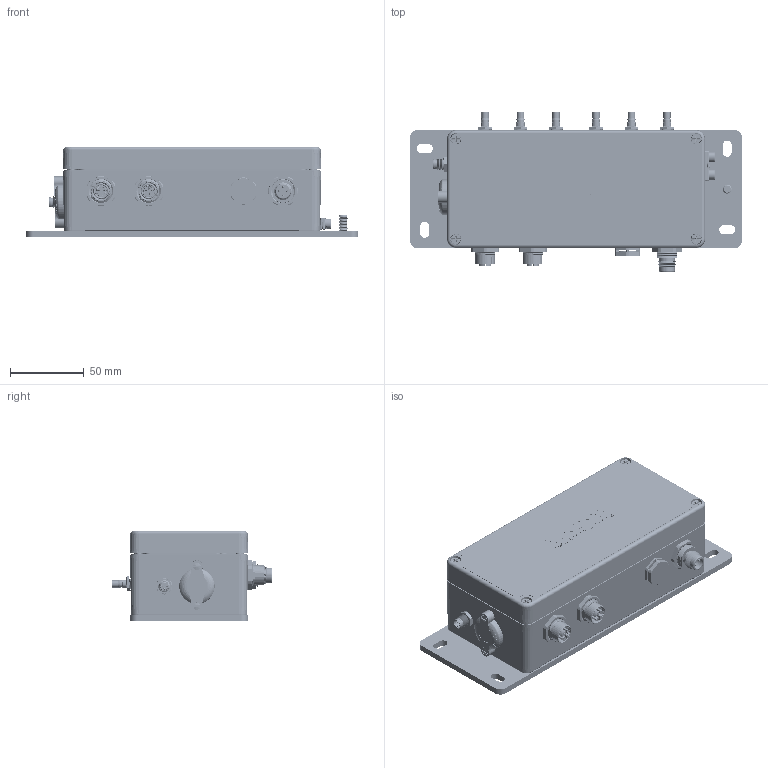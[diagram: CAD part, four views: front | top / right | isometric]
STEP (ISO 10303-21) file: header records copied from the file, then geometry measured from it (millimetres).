
FILE_DESCRIPTION(/* description */ (''),/* implementation_level */ '2;1');
FILE_NAME(/* name */ 'C:\Users\Jonathan\Documents\RailBox\Méca\RailBox_XXAXf.stp',/* time_stamp */ '2020-08-05T18:10:41+02:00',/* author */ ('Jonathan'),/* organization */ (''),/* preprocessor_version */ 'ST-DEVELOPER v18',/* originating_system */ 'AutoCAD Mechanical',/* authorisation */ '');
FILE_SCHEMA (('AUTOMOTIVE_DESIGN { 1 0 10303 214 3 1 1 }'));
Products named in the file (5): Product; QMA; QMA$1$ATF; QMA$2$ATF; QMA$3$ATF
Assembly tree (6 placements, depth 2):
  Product
    QMA  x3
    QMA$1$ATF
    QMA$2$ATF
    QMA$3$ATF
Bounding box: 225 x 108.65 x 61.55 mm (x, y, z)
Volume: 279609 mm3; surface area: 168431.9 mm2
Topology: 56 solids, 70 shells, 4083 faces, 10543 edges, 6733 vertices
Faces by surface type: plane 2089, cylinder 798, cone 693, torus 242, bspline 214, sphere 47
Full cylindrical faces by diameter (mm): 0.6 x16, 0.7 x16, 0.95 x6, 1 x9, 1.1 x16, 1.2 x4, 1.24 x16, 1.275 x6, 1.29 x12, 1.876 x6, 3 x2, 3.141 x6, 3.2 x2, 3.3 x5, 3.7 x4, 4 x8, 4.06 x12, 4.1 x6, 4.5 x8, 4.6 x6, 4.9 x6, 4.95 x6, 5.52 x6, 5.57 x6, 5.8 x1, 6 x13, 6.159 x1, 6.5 x3, 6.9 x1, 7 x2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
Entity records: 141093 total; most frequent: CARTESIAN_POINT 49618, ORIENTED_EDGE 19602, DIRECTION 18488, EDGE_CURVE 9801, AXIS2_PLACEMENT_3D 6455, VERTEX_POINT 6297, LINE 5578, VECTOR 5578
